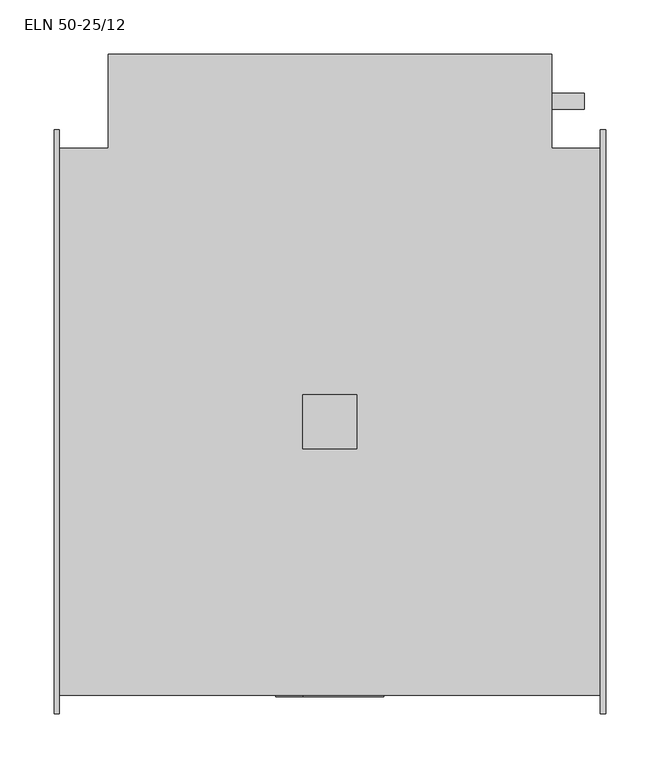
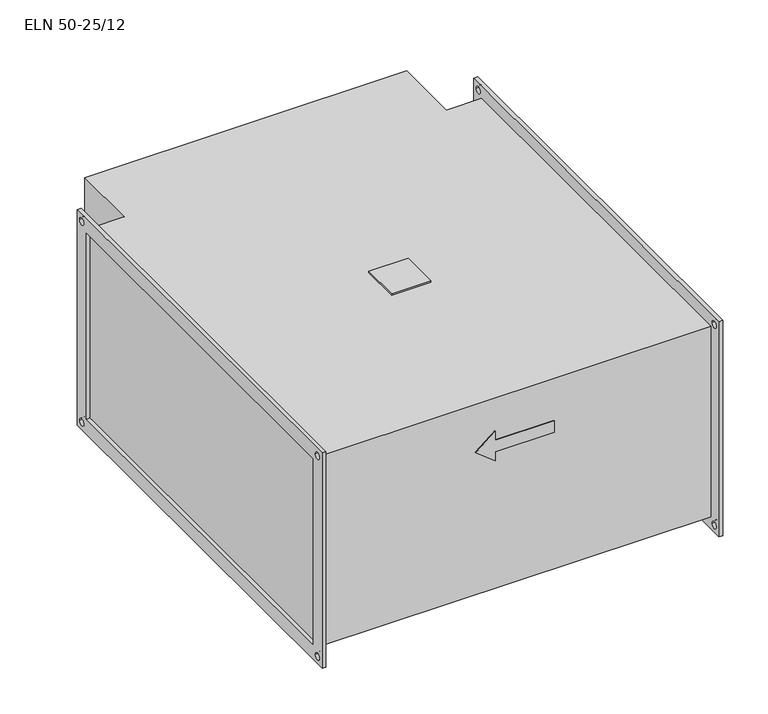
"""IFC4 building model written with IfcOpenShell, lengths in millimetres: proxy geometry, KORF_Нагреватель_Электрический_ELN : ELN 50-25/12."""

from ifc_helpers import new_model, si_unit, point, frame, frame_2d, origin, place, context, project, spatial, polyline, circle_curve, trimmed, segment, composite_curve, outline, extrude, source, transform, mapped, element, save


def eln_50_25_12_b576d61d(model_context):
    return source(origin(), model_context, "Body", "SweptSolid", [
        extrude(outline(polyline([(230.0, -25.0), (230.0, 25.0), (280.0, 25.0), (280.0, -25.0), (230.0, -25.0)])), frame((0.0, 0.0, 128.0), z_axis=(0.0, 0.0, 1.0), x_axis=(1.0, 0.0, 0.0)), (0.0, 0.0, 1.0), 2.0),
        extrude(outline(composite_curve([segment(trimmed(circle_curve(frame_2d((296.5, -64.0)), 7.5), [point((289.0, -64.0))], [point((304.0, -64.0))], False, "CARTESIAN"), True, "CONTINUOUS"), segment(trimmed(circle_curve(frame_2d((296.5, -64.0)), 7.5), [point((304.0, -64.0))], [point((289.0, -64.0))], False, "CARTESIAN"), True, "CONTINUOUS")], self_intersect=False)), frame((460.0, 0.0, 0.0), z_axis=(1.0, 0.0, 0.0), x_axis=(0.0, 1.0, 0.0)), (0.0, 0.0, 1.0), 30.0),
        extrude(outline(composite_curve([segment(trimmed(circle_curve(frame_2d((296.5, -44.0)), 7.5), [point((289.0, -44.0))], [point((304.0, -44.0))], False, "CARTESIAN"), True, "CONTINUOUS"), segment(trimmed(circle_curve(frame_2d((296.5, -44.0)), 7.5), [point((304.0, -44.0))], [point((289.0, -44.0))], False, "CARTESIAN"), True, "CONTINUOUS")], self_intersect=False)), frame((460.0, 0.0, 0.0), z_axis=(1.0, 0.0, 0.0), x_axis=(0.0, 1.0, 0.0)), (0.0, 0.0, 1.0), 30.0),
        extrude(outline(composite_curve([segment(trimmed(circle_curve(frame_2d((296.5, -84.0)), 7.5), [point((289.0, -84.0))], [point((304.0, -84.0))], False, "CARTESIAN"), True, "CONTINUOUS"), segment(trimmed(circle_curve(frame_2d((296.5, -84.0)), 7.5), [point((304.0, -84.0))], [point((289.0, -84.0))], False, "CARTESIAN"), True, "CONTINUOUS")], self_intersect=False)), frame((460.0, 0.0, 0.0), z_axis=(1.0, 0.0, 0.0), x_axis=(0.0, 1.0, 0.0)), (0.0, 0.0, 1.0), 30.0),
        extrude(outline(polyline([(84.0, 230.0), (64.0, 205.0), (44.0, 230.0), (56.5, 230.0), (56.5, 305.0), (71.5, 305.0), (71.5, 230.0), (84.0, 230.0)])), frame((0.0, -254.0, 0.0), z_axis=(0.0, 1.0, 0.0), x_axis=(0.0, 0.0, 1.0)), (0.0, 0.0, 1.0), 1.0),
        extrude(outline(polyline([(505.0, 253.0), (505.0, -253.0), (5.0, -253.0), (5.0, 253.0), (50.0, 253.0), (50.0, 340.0), (460.0, 340.0), (460.0, 253.0), (505.0, 253.0)])), frame((0.0, 0.0, -128.0), z_axis=(0.0, 0.0, 1.0), x_axis=(1.0, 0.0, 0.0)), (0.0, 0.0, 1.0), 256.0),
        extrude(outline(polyline([(-270.0, 145.0), (270.0, 145.0), (270.0, -145.0), (-270.0, -145.0), (-270.0, 145.0)]), holes=[polyline([(-250.0, 125.0), (-250.0, -125.0), (250.0, -125.0), (250.0, 125.0), (-250.0, 125.0)]), composite_curve([segment(trimmed(circle_curve(frame_2d((260.0, 135.0)), 4.5), [point((255.5, 135.0))], [point((264.5, 135.0))], True, "CARTESIAN"), True, "CONTINUOUS"), segment(trimmed(circle_curve(frame_2d((260.0, 135.0)), 4.5), [point((264.5, 135.0))], [point((255.5, 135.0))], True, "CARTESIAN"), True, "CONTINUOUS")], self_intersect=False), composite_curve([segment(trimmed(circle_curve(frame_2d((-260.0, 135.0)), 4.5), [point((-264.5, 135.0))], [point((-255.5, 135.0))], True, "CARTESIAN"), True, "CONTINUOUS"), segment(trimmed(circle_curve(frame_2d((-260.0, 135.0)), 4.5), [point((-255.5, 135.0))], [point((-264.5, 135.0))], True, "CARTESIAN"), True, "CONTINUOUS")], self_intersect=False), composite_curve([segment(trimmed(circle_curve(frame_2d((-260.0, -135.0)), 4.5), [point((-264.5, -135.0))], [point((-255.5, -135.0))], True, "CARTESIAN"), True, "CONTINUOUS"), segment(trimmed(circle_curve(frame_2d((-260.0, -135.0)), 4.5), [point((-255.5, -135.0))], [point((-264.5, -135.0))], True, "CARTESIAN"), True, "CONTINUOUS")], self_intersect=False), composite_curve([segment(trimmed(circle_curve(frame_2d((260.0, -135.0)), 4.5), [point((255.5, -135.0))], [point((264.5, -135.0))], True, "CARTESIAN"), True, "CONTINUOUS"), segment(trimmed(circle_curve(frame_2d((260.0, -135.0)), 4.5), [point((264.5, -135.0))], [point((255.5, -135.0))], True, "CARTESIAN"), True, "CONTINUOUS")], self_intersect=False)]), frame((505.0, 0.0, 0.0), z_axis=(1.0, 0.0, 0.0), x_axis=(0.0, 1.0, 0.0)), (0.0, 0.0, 1.0), 5.0),
        extrude(outline(polyline([(-270.0, 145.0), (270.0, 145.0), (270.0, -145.0), (-270.0, -145.0), (-270.0, 145.0)]), holes=[polyline([(-250.0, 125.0), (-250.0, -125.0), (250.0, -125.0), (250.0, 125.0), (-250.0, 125.0)]), composite_curve([segment(trimmed(circle_curve(frame_2d((260.0, 135.0)), 4.5), [point((255.5, 135.0))], [point((264.5, 135.0))], True, "CARTESIAN"), True, "CONTINUOUS"), segment(trimmed(circle_curve(frame_2d((260.0, 135.0)), 4.5), [point((264.5, 135.0))], [point((255.5, 135.0))], True, "CARTESIAN"), True, "CONTINUOUS")], self_intersect=False), composite_curve([segment(trimmed(circle_curve(frame_2d((-260.0, 135.0)), 4.5), [point((-264.5, 135.0))], [point((-255.5, 135.0))], True, "CARTESIAN"), True, "CONTINUOUS"), segment(trimmed(circle_curve(frame_2d((-260.0, 135.0)), 4.5), [point((-255.5, 135.0))], [point((-264.5, 135.0))], True, "CARTESIAN"), True, "CONTINUOUS")], self_intersect=False), composite_curve([segment(trimmed(circle_curve(frame_2d((-260.0, -135.0)), 4.5), [point((-264.5, -135.0))], [point((-255.5, -135.0))], True, "CARTESIAN"), True, "CONTINUOUS"), segment(trimmed(circle_curve(frame_2d((-260.0, -135.0)), 4.5), [point((-255.5, -135.0))], [point((-264.5, -135.0))], True, "CARTESIAN"), True, "CONTINUOUS")], self_intersect=False), composite_curve([segment(trimmed(circle_curve(frame_2d((260.0, -135.0)), 4.5), [point((255.5, -135.0))], [point((264.5, -135.0))], True, "CARTESIAN"), True, "CONTINUOUS"), segment(trimmed(circle_curve(frame_2d((260.0, -135.0)), 4.5), [point((264.5, -135.0))], [point((255.5, -135.0))], True, "CARTESIAN"), True, "CONTINUOUS")], self_intersect=False)]), frame((0.0, 0.0, 0.0), z_axis=(1.0, 0.0, 0.0), x_axis=(0.0, 1.0, 0.0)), (0.0, 0.0, 1.0), 5.0),
    ])


if __name__ == "__main__":
    model = new_model("IFC4")
    model_context = context("Model", 3, world=origin())
    ifc_project = project(units=[si_unit("LENGTHUNIT", "METRE", prefix="MILLI")], contexts=[model_context])
    site = spatial("IfcSite", under=ifc_project)
    building = spatial("IfcBuilding", under=site)
    placement = place(None, origin())
    eln_50_25_12_shape = eln_50_25_12_b576d61d(model_context)
    element("IfcBuildingElementProxy", 1, Name="KORF_Нагреватель_Электрический_ELN : ELN 50-25/12", ObjectType="KORF_Нагреватель_Электрический_ELN : ELN 50-25/12", at=placement, inside=building, context=model_context, shape_type="MappedRepresentation", body=[
        mapped(eln_50_25_12_shape, transform((0.0, 0.0, 0.0), x_axis=(1.0, 0.0, 0.0), y_axis=(0.0, 1.0, 0.0), z_axis=(0.0, 0.0, 1.0))),
    ])
    save(model, "model.ifc")
